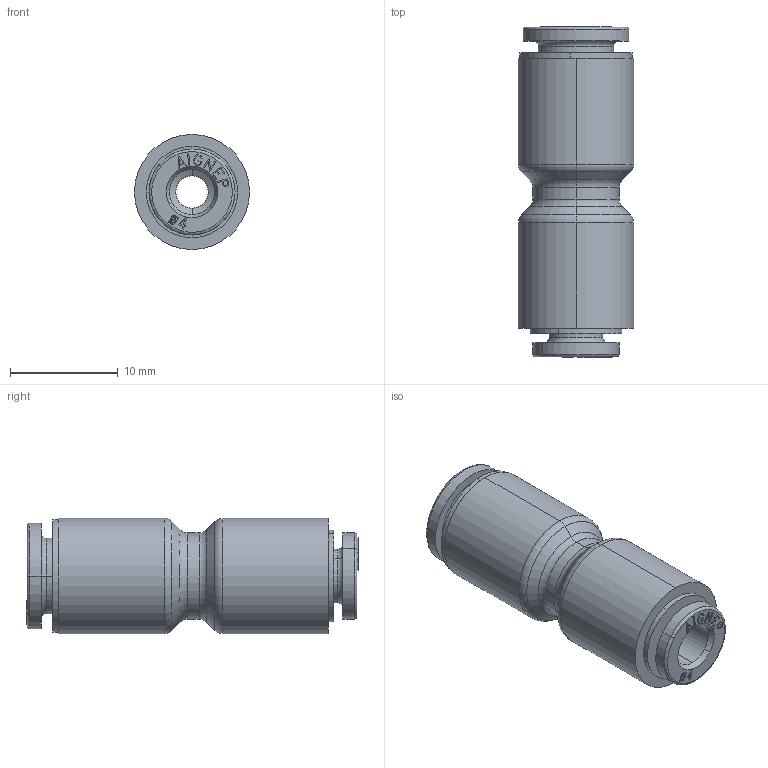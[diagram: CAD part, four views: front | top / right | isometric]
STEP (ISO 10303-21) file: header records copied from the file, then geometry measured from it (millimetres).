
FILE_DESCRIPTION (( 'STEP AP214' ), '1' );
FILE_NAME ('5404000009A.STEP', '2024-09-18T09:39:52', ( '' ), ( '' ), 'SwSTEP 2.0', 'SolidWorks 2020', '' );
FILE_SCHEMA (( 'AUTOMOTIVE_DESIGN' ));
Length unit declared in the file: millimetre
Products named in the file (1): 5404000009A
Bounding box: 10.7 x 30.85 x 10.7 mm (x, y, z)
Volume: 1768.2 mm3; surface area: 1751.1 mm2
Topology: 1 solids, 1 shells, 455 faces, 1231 edges, 810 vertices
Faces by surface type: plane 265, bspline 138, cylinder 24, torus 16, cone 12
Entity records: 21692 total; most frequent: CARTESIAN_POINT 6075, ORIENTED_EDGE 2462, DIRECTION 1679, EDGE_CURVE 1231, VECTOR 867, LINE 867, VERTEX_POINT 810, EDGE_LOOP 489
